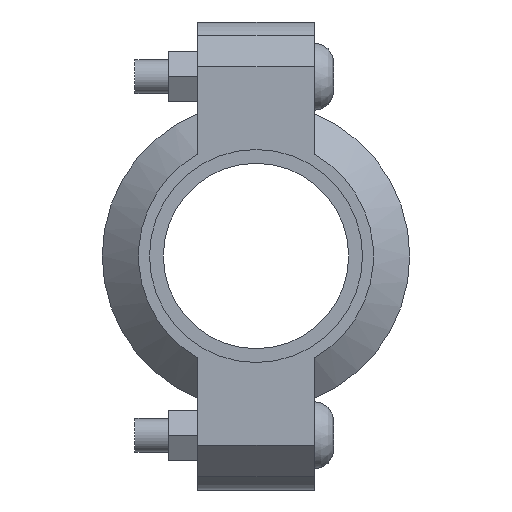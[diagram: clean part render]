
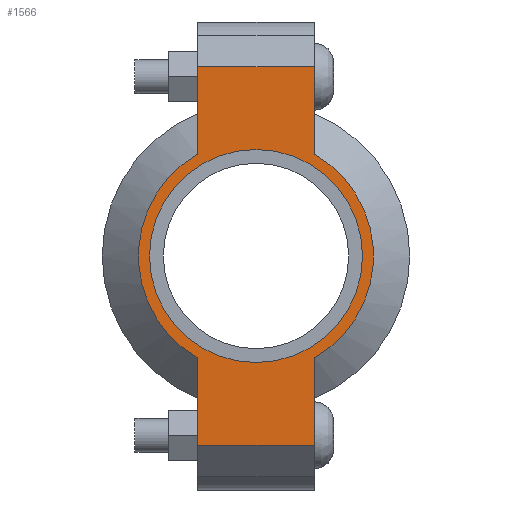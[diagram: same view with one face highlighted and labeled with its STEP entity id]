
A CAD part, left-side view. The second image highlights one B-rep face of the part: STEP entity #1566.
In plain terms, the highlighted planar face has unit normal (-1, 0, 0) as drawn and (0, 0, 1) by its records, which use the part's own axes.
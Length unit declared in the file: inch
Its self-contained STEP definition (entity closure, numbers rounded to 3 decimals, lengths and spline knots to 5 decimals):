
#190=LINE('',#2733,#283);
#198=LINE('',#2769,#291);
#205=LINE('',#2790,#298);
#214=LINE('',#2822,#307);
#215=LINE('',#2826,#308);
#216=LINE('',#2828,#309);
#283=VECTOR('',#2225,0.3937);
#291=VECTOR('',#2241,0.3937);
#298=VECTOR('',#2260,0.3937);
#307=VECTOR('',#2285,0.3937);
#308=VECTOR('',#2290,0.3937);
#309=VECTOR('',#2291,0.3937);
#365=FACE_BOUND('',#543,.T.);
#437=FACE_OUTER_BOUND('',#542,.T.);
#542=EDGE_LOOP('',(#1307,#1308,#1309,#1310,#1311,#1312,#1313,#1314));
#543=EDGE_LOOP('',(#1315));
#615=CIRCLE('',#1785,1.1875);
#641=CIRCLE('',#1844,1.31);
#642=CIRCLE('',#1845,1.31);
#707=VERTEX_POINT('',#2549);
#750=VERTEX_POINT('',#2730);
#751=VERTEX_POINT('',#2732);
#762=VERTEX_POINT('',#2764);
#763=VERTEX_POINT('',#2768);
#770=VERTEX_POINT('',#2787);
#771=VERTEX_POINT('',#2789);
#781=VERTEX_POINT('',#2825);
#782=VERTEX_POINT('',#2827);
#863=EDGE_CURVE('',#707,#707,#615,.T.);
#924=EDGE_CURVE('',#751,#750,#190,.T.);
#938=EDGE_CURVE('',#763,#762,#198,.T.);
#948=EDGE_CURVE('',#771,#770,#205,.T.);
#963=EDGE_CURVE('',#763,#750,#214,.T.);
#964=EDGE_CURVE('',#762,#771,#641,.T.);
#965=EDGE_CURVE('',#781,#770,#215,.T.);
#966=EDGE_CURVE('',#781,#782,#216,.T.);
#967=EDGE_CURVE('',#782,#751,#642,.T.);
#1307=ORIENTED_EDGE('',*,*,#963,.F.);
#1308=ORIENTED_EDGE('',*,*,#938,.T.);
#1309=ORIENTED_EDGE('',*,*,#964,.T.);
#1310=ORIENTED_EDGE('',*,*,#948,.T.);
#1311=ORIENTED_EDGE('',*,*,#965,.F.);
#1312=ORIENTED_EDGE('',*,*,#966,.T.);
#1313=ORIENTED_EDGE('',*,*,#967,.T.);
#1314=ORIENTED_EDGE('',*,*,#924,.T.);
#1315=ORIENTED_EDGE('',*,*,#863,.T.);
#1408=PLANE('',#1843);
#1566=ADVANCED_FACE('',(#437,#365),#1408,.T.);
#1785=AXIS2_PLACEMENT_3D('',#2551,#2101,#2102);
#1843=AXIS2_PLACEMENT_3D('',#2823,#2286,#2287);
#1844=AXIS2_PLACEMENT_3D('',#2824,#2288,#2289);
#1845=AXIS2_PLACEMENT_3D('',#2829,#2292,#2293);
#2101=DIRECTION('center_axis',(0.,0.,-1.));
#2102=DIRECTION('ref_axis',(-1.,0.,0.));
#2225=DIRECTION('',(-1.,0.,0.));
#2241=DIRECTION('',(1.,0.,0.));
#2260=DIRECTION('',(1.,0.,0.));
#2285=DIRECTION('',(0.,1.,0.));
#2286=DIRECTION('center_axis',(0.,0.,1.));
#2287=DIRECTION('ref_axis',(1.,0.,0.));
#2288=DIRECTION('center_axis',(0.,0.,1.));
#2289=DIRECTION('ref_axis',(-1.,0.,0.));
#2290=DIRECTION('',(0.,-1.,0.));
#2291=DIRECTION('',(-1.,0.,0.));
#2292=DIRECTION('center_axis',(0.,0.,1.));
#2293=DIRECTION('ref_axis',(-1.,0.,0.));
#2549=CARTESIAN_POINT('',(1.1875,0.,0.94));
#2551=CARTESIAN_POINT('Origin',(0.,0.,0.94));
#2730=CARTESIAN_POINT('',(-2.11,0.65,0.94));
#2732=CARTESIAN_POINT('',(-1.13737,0.65,0.94));
#2733=CARTESIAN_POINT('',(-2.61,0.65,0.94));
#2764=CARTESIAN_POINT('',(-1.13737,-0.65,0.94));
#2768=CARTESIAN_POINT('',(-2.11,-0.65,0.94));
#2769=CARTESIAN_POINT('',(2.61,-0.65,0.94));
#2787=CARTESIAN_POINT('',(2.11,-0.65,0.94));
#2789=CARTESIAN_POINT('',(1.13737,-0.65,0.94));
#2790=CARTESIAN_POINT('',(2.61,-0.65,0.94));
#2822=CARTESIAN_POINT('',(-2.11,0.325,0.94));
#2823=CARTESIAN_POINT('Origin',(0.,0.,0.94));
#2824=CARTESIAN_POINT('Origin',(0.,0.,0.94));
#2825=CARTESIAN_POINT('',(2.11,0.65,0.94));
#2826=CARTESIAN_POINT('',(2.11,-0.325,0.94));
#2827=CARTESIAN_POINT('',(1.13737,0.65,0.94));
#2828=CARTESIAN_POINT('',(-2.61,0.65,0.94));
#2829=CARTESIAN_POINT('Origin',(0.,0.,0.94));
